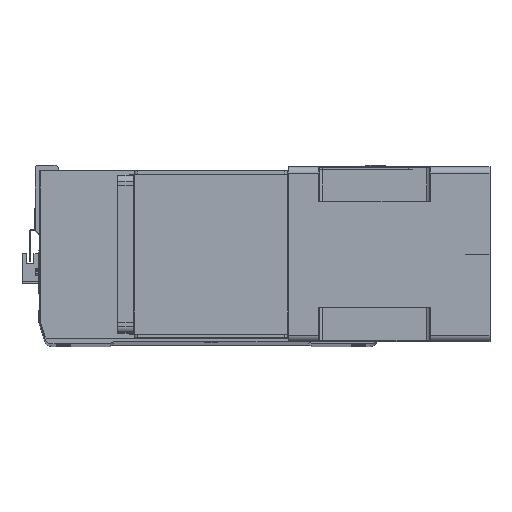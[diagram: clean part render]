
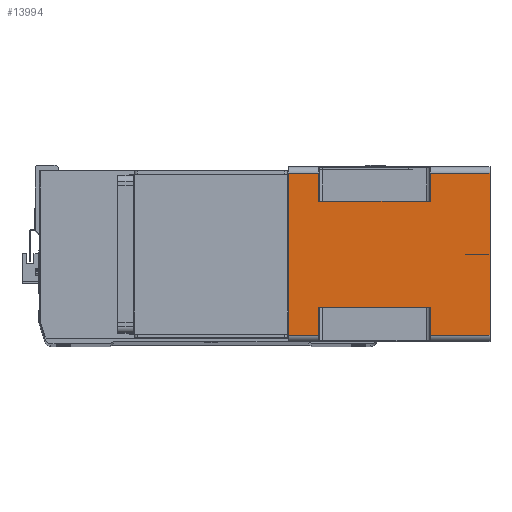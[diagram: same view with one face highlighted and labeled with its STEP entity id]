
A CAD part, top view. The second image highlights one B-rep face of the part: STEP entity #13994.
In plain terms, the highlighted planar face has unit normal (0, 0, 1) as drawn and (1, 0, 0) by its records, which use the part's own axes.
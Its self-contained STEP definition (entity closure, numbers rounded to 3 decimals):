
#630 = ORIENTED_EDGE ( 'NONE', *, *, #23266, .T. ) ;
#835 = ORIENTED_EDGE ( 'NONE', *, *, #5340, .T. ) ;
#886 = DIRECTION ( 'NONE',  ( 1., 0., 0. ) ) ;
#1332 = CARTESIAN_POINT ( 'NONE',  ( 71., -43., -24.5 ) ) ;
#1494 = VERTEX_POINT ( 'NONE', #25569 ) ;
#1720 = DIRECTION ( 'NONE',  ( 0., -1., 0. ) ) ;
#2119 = EDGE_CURVE ( 'NONE', #9947, #16659, #12976, .T. ) ;
#2145 = EDGE_CURVE ( 'NONE', #1494, #13059, #7878, .T. ) ;
#2397 = DIRECTION ( 'NONE',  ( 0., 1., 0. ) ) ;
#2540 = DIRECTION ( 'NONE',  ( 0., 0., 1. ) ) ;
#2739 = CARTESIAN_POINT ( 'NONE',  ( 71., -66., -164. ) ) ;
#3252 = AXIS2_PLACEMENT_3D ( 'NONE', #22315, #886, #24561 ) ;
#3460 = VERTEX_POINT ( 'NONE', #6361 ) ;
#4519 = CARTESIAN_POINT ( 'NONE',  ( 71., -66., 0. ) ) ;
#4606 = DIRECTION ( 'NONE',  ( 0., 0., -1. ) ) ;
#5340 = EDGE_CURVE ( 'NONE', #28378, #5910, #23869, .T. ) ;
#5910 = VERTEX_POINT ( 'NONE', #17767 ) ;
#6017 = LINE ( 'NONE', #28455, #11139 ) ;
#6090 = VERTEX_POINT ( 'NONE', #14437 ) ;
#6361 = CARTESIAN_POINT ( 'NONE',  ( 71., -66., -24.5 ) ) ;
#6526 = CARTESIAN_POINT ( 'NONE',  ( 71., 66., -164. ) ) ;
#6853 = EDGE_CURVE ( 'NONE', #21141, #10581, #16730, .T. ) ;
#7025 = EDGE_LOOP ( 'NONE', ( #29500, #20716, #17144, #30246, #7306, #8437, #22614, #19850, #835, #29533, #13181, #630 ) ) ;
#7306 = ORIENTED_EDGE ( 'NONE', *, *, #10518, .T. ) ;
#7332 = CARTESIAN_POINT ( 'NONE',  ( 71., -66., -164. ) ) ;
#7557 = VECTOR ( 'NONE', #2540, 1000. ) ;
#7878 = LINE ( 'NONE', #9701, #27763 ) ;
#8311 = VECTOR ( 'NONE', #14293, 1000. ) ;
#8437 = ORIENTED_EDGE ( 'NONE', *, *, #8808, .T. ) ;
#8608 = LINE ( 'NONE', #4519, #21156 ) ;
#8808 = EDGE_CURVE ( 'NONE', #6090, #13059, #25862, .T. ) ;
#9296 = CARTESIAN_POINT ( 'NONE',  ( 71., -66., -164. ) ) ;
#9701 = CARTESIAN_POINT ( 'NONE',  ( 71., 43., -164. ) ) ;
#9947 = VERTEX_POINT ( 'NONE', #17292 ) ;
#9958 = LINE ( 'NONE', #20415, #20280 ) ;
#10162 = EDGE_CURVE ( 'NONE', #1494, #28378, #17523, .T. ) ;
#10518 = EDGE_CURVE ( 'NONE', #30426, #6090, #19387, .T. ) ;
#10581 = VERTEX_POINT ( 'NONE', #14438 ) ;
#10877 = VECTOR ( 'NONE', #24288, 1000. ) ;
#11139 = VECTOR ( 'NONE', #28566, 1000. ) ;
#11414 = DIRECTION ( 'NONE',  ( 0., 0., 1. ) ) ;
#11756 = DIRECTION ( 'NONE',  ( 0., 0., 1. ) ) ;
#12976 = LINE ( 'NONE', #28474, #15184 ) ;
#13044 = FACE_OUTER_BOUND ( 'NONE', #7025, .T. ) ;
#13059 = VERTEX_POINT ( 'NONE', #20472 ) ;
#13181 = ORIENTED_EDGE ( 'NONE', *, *, #20960, .F. ) ;
#13535 = VECTOR ( 'NONE', #11414, 1000. ) ;
#13813 = EDGE_CURVE ( 'NONE', #27597, #5910, #8608, .T. ) ;
#13994 = ADVANCED_FACE ( 'NONE', ( #13044 ), #22222, .T. ) ;
#14293 = DIRECTION ( 'NONE',  ( 0., 0., 1. ) ) ;
#14437 = CARTESIAN_POINT ( 'NONE',  ( 71., 66., -115.5 ) ) ;
#14438 = CARTESIAN_POINT ( 'NONE',  ( 71., -66., -115.5 ) ) ;
#15184 = VECTOR ( 'NONE', #11756, 1000. ) ;
#16659 = VERTEX_POINT ( 'NONE', #1332 ) ;
#16730 = LINE ( 'NONE', #7332, #8311 ) ;
#16800 = VECTOR ( 'NONE', #2397, 1000. ) ;
#17144 = ORIENTED_EDGE ( 'NONE', *, *, #6853, .F. ) ;
#17292 = CARTESIAN_POINT ( 'NONE',  ( 71., -43., -115.5 ) ) ;
#17523 = LINE ( 'NONE', #20798, #16800 ) ;
#17767 = CARTESIAN_POINT ( 'NONE',  ( 71., 66., 0. ) ) ;
#18320 = CARTESIAN_POINT ( 'NONE',  ( 71., 66., -24.5 ) ) ;
#18661 = EDGE_CURVE ( 'NONE', #21141, #30426, #9958, .T. ) ;
#19387 = LINE ( 'NONE', #22864, #26770 ) ;
#19850 = ORIENTED_EDGE ( 'NONE', *, *, #10162, .T. ) ;
#20280 = VECTOR ( 'NONE', #24872, 1000. ) ;
#20415 = CARTESIAN_POINT ( 'NONE',  ( 71., -66., -164. ) ) ;
#20472 = CARTESIAN_POINT ( 'NONE',  ( 71., 43., -115.5 ) ) ;
#20716 = ORIENTED_EDGE ( 'NONE', *, *, #21584, .T. ) ;
#20798 = CARTESIAN_POINT ( 'NONE',  ( 71., -66., -24.5 ) ) ;
#20855 = LINE ( 'NONE', #22033, #10877 ) ;
#20960 = EDGE_CURVE ( 'NONE', #3460, #27597, #26720, .T. ) ;
#21141 = VERTEX_POINT ( 'NONE', #2739 ) ;
#21156 = VECTOR ( 'NONE', #24141, 1000. ) ;
#21584 = EDGE_CURVE ( 'NONE', #9947, #10581, #20855, .T. ) ;
#22033 = CARTESIAN_POINT ( 'NONE',  ( 71., -66., -115.5 ) ) ;
#22222 = PLANE ( 'NONE',  #3252 ) ;
#22315 = CARTESIAN_POINT ( 'NONE',  ( 71., -66., -164. ) ) ;
#22614 = ORIENTED_EDGE ( 'NONE', *, *, #2145, .F. ) ;
#22864 = CARTESIAN_POINT ( 'NONE',  ( 71., 66., -164. ) ) ;
#23266 = EDGE_CURVE ( 'NONE', #3460, #16659, #6017, .T. ) ;
#23869 = LINE ( 'NONE', #6526, #13535 ) ;
#24141 = DIRECTION ( 'NONE',  ( 0., 1., 0. ) ) ;
#24288 = DIRECTION ( 'NONE',  ( 0., -1., 0. ) ) ;
#24561 = DIRECTION ( 'NONE',  ( 0., 1., 0. ) ) ;
#24872 = DIRECTION ( 'NONE',  ( 0., 1., 0. ) ) ;
#24923 = DIRECTION ( 'NONE',  ( 0., 0., 1. ) ) ;
#25569 = CARTESIAN_POINT ( 'NONE',  ( 71., 43., -24.5 ) ) ;
#25862 = LINE ( 'NONE', #27560, #28416 ) ;
#26653 = CARTESIAN_POINT ( 'NONE',  ( 71., 66., -164. ) ) ;
#26720 = LINE ( 'NONE', #9296, #7557 ) ;
#26770 = VECTOR ( 'NONE', #24923, 1000. ) ;
#27560 = CARTESIAN_POINT ( 'NONE',  ( 71., 43., -115.5 ) ) ;
#27597 = VERTEX_POINT ( 'NONE', #28759 ) ;
#27763 = VECTOR ( 'NONE', #4606, 1000. ) ;
#28378 = VERTEX_POINT ( 'NONE', #18320 ) ;
#28416 = VECTOR ( 'NONE', #1720, 1000. ) ;
#28455 = CARTESIAN_POINT ( 'NONE',  ( 71., -43., -24.5 ) ) ;
#28474 = CARTESIAN_POINT ( 'NONE',  ( 71., -43., -164. ) ) ;
#28566 = DIRECTION ( 'NONE',  ( 0., 1., 0. ) ) ;
#28759 = CARTESIAN_POINT ( 'NONE',  ( 71., -66., 0. ) ) ;
#29500 = ORIENTED_EDGE ( 'NONE', *, *, #2119, .F. ) ;
#29533 = ORIENTED_EDGE ( 'NONE', *, *, #13813, .F. ) ;
#30246 = ORIENTED_EDGE ( 'NONE', *, *, #18661, .T. ) ;
#30426 = VERTEX_POINT ( 'NONE', #26653 ) ;
